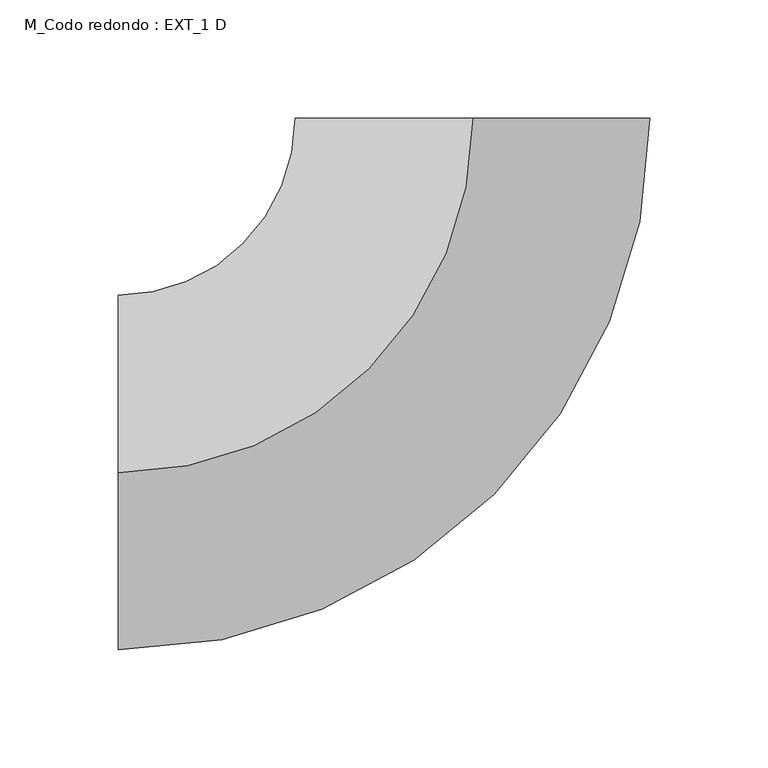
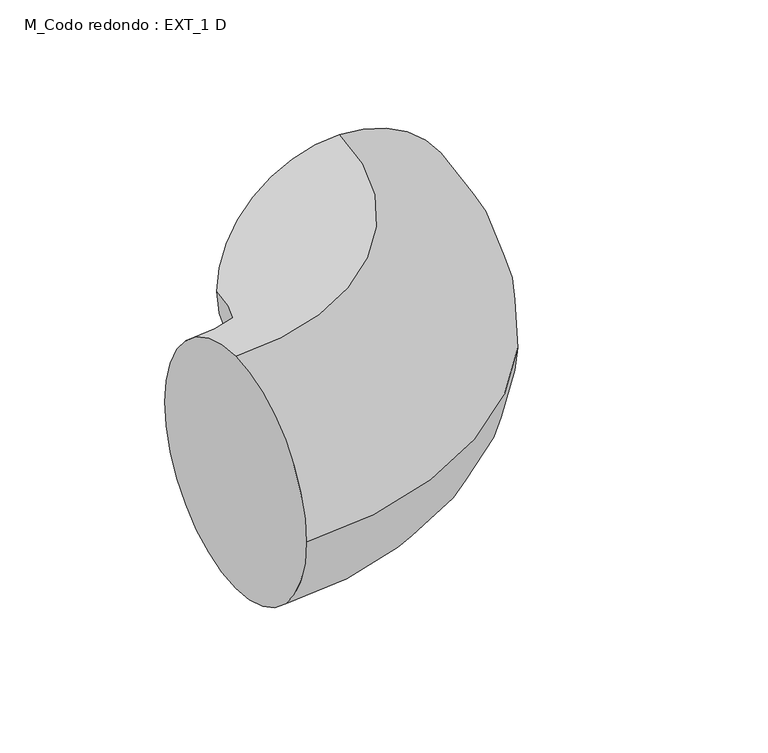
"""IFC4 building model written with IfcOpenShell, lengths in millimetres: duct fitting geometry, M_Codo redondo : EXT_1 D."""

from ifc_helpers import new_model, si_unit, point, frame, origin, place, context, project, spatial, circle_curve, ellipse_curve, trimmed, source, transform, mapped, element, save
from ifc_brep_helpers import plane_surface, revolved_surface, advanced_brep


def m_codo_redondo_ext_1_d_1a9a136b(model_context):
    return source(origin(), model_context, "Body", "AdvancedBrep", [
        advanced_brep(
        [(-150.0031728, 0.0, 75.0), (-150.0031728, 75.0, 0.0), (-150.0031728, 0.0, -75.0), (-150.0031728, -75.0, 0.0), (-0.0031729, 150.0031728, 75.0), (74.9968271, 150.0047592, 0.0), (-0.0031729, 150.0031728, -75.0), (-75.0031729, 150.0015864, 0.0)],
        [
            (0, 1, circle_curve(frame((-150.0031728, 0.0, 0.0), z_axis=(-1.0, 0.0, 0.0), x_axis=(0.0, 1.0, 0.0)), 75.0)),
            (1, 2, circle_curve(frame((-150.0031728, 0.0, 0.0), z_axis=(-1.0, 0.0, 0.0), x_axis=(0.0, 1.0, 0.0)), 75.0)),
            (2, 3, circle_curve(frame((-150.0031728, 0.0, 0.0), z_axis=(-1.0, 0.0, 0.0), x_axis=(0.0, 1.0, 0.0)), 75.0)),
            (3, 0, circle_curve(frame((-150.0031728, 0.0, 0.0), z_axis=(-1.0, 0.0, 0.0), x_axis=(0.0, 1.0, 0.0)), 75.0)),
            (4, 5, circle_curve(frame((-0.0031729, 150.0031728, 0.0), z_axis=(-2.115200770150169e-05, 0.9999999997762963, 0.0), x_axis=(-0.9999999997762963, -2.115200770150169e-05, 0.0)), 75.0)),
            (5, 6, circle_curve(frame((-0.0031729, 150.0031728, 0.0), z_axis=(-2.115200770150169e-05, 0.9999999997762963, 0.0), x_axis=(-0.9999999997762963, -2.115200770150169e-05, 0.0)), 75.0)),
            (6, 7, circle_curve(frame((-0.0031729, 150.0031728, 0.0), z_axis=(-2.115200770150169e-05, 0.9999999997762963, 0.0), x_axis=(-0.9999999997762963, -2.115200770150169e-05, 0.0)), 75.0)),
            (7, 4, circle_curve(frame((-0.0031729, 150.0031728, 0.0), z_axis=(-2.115200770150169e-05, 0.9999999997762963, 0.0), x_axis=(-0.9999999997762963, -2.115200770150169e-05, 0.0)), 75.0)),
            (7, 1, circle_curve(frame((-150.0031728, 150.0, 0.0), z_axis=(0.0, 0.0, -1.0), x_axis=(0.0, -1.0, 0.0)), 75.0)),
            (0, 4, circle_curve(frame((-150.0031728, 150.0, 75.0), z_axis=(0.0, 0.0, 1.0), x_axis=(0.0, -1.0, 0.0)), 150.0)),
            (6, 2, circle_curve(frame((-150.0031728, 150.0, -75.0), z_axis=(0.0, 0.0, -1.0), x_axis=(0.0, -1.0, 0.0)), 150.0)),
            (5, 3, circle_curve(frame((-150.0031728, 150.0, 0.0), z_axis=(0.0, 0.0, -1.0), x_axis=(0.0, -1.0, 0.0)), 225.0)),
        ],
        [
            plane_surface(frame((-150.0031728, 0.0, 0.0), z_axis=(-1.0, 0.0, 0.0), x_axis=(0.0, 0.0, 1.0))),
            plane_surface(frame((-0.0031729, 150.0031728, 0.0), z_axis=(-2.1152007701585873e-05, 0.9999999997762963, 0.0), x_axis=(0.0, 0.0, 1.0))),
            revolved_surface(trimmed(ellipse_curve(frame((-150.0031728, 0.0, 0.0), z_axis=(-1.0, 0.0, 0.0), x_axis=(0.0, 1.0, 0.0)), 75.0, 75.0), [point((-150.0031728, 0.0, 75.0))], [point((-150.0031728, 75.0, 0.0))], True, "CARTESIAN"), (-150.0031728, 150.0, 0.0), (0.0, 0.0, 1.0)),
            revolved_surface(trimmed(ellipse_curve(frame((-150.0031728, 0.0, 0.0), z_axis=(-1.0, 0.0, 0.0), x_axis=(0.0, 1.0, 0.0)), 75.0, 75.0), [point((-150.0031728, 75.0, 0.0))], [point((-150.0031728, 0.0, -75.0))], True, "CARTESIAN"), (-150.0031728, 150.0, 0.0), (0.0, 0.0, 1.0)),
            revolved_surface(trimmed(ellipse_curve(frame((-150.0031728, 0.0, 0.0), z_axis=(-1.0, 0.0, 0.0), x_axis=(0.0, 1.0, 0.0)), 75.0, 75.0), [point((-150.0031728, 0.0, -75.0))], [point((-150.0031728, -75.0, 0.0))], True, "CARTESIAN"), (-150.0031728, 150.0, 0.0), (0.0, 0.0, 1.0)),
            revolved_surface(trimmed(ellipse_curve(frame((-150.0031728, 0.0, 0.0), z_axis=(-1.0, 0.0, 0.0), x_axis=(0.0, 1.0, 0.0)), 75.0, 75.0), [point((-150.0031728, -75.0, 0.0))], [point((-150.0031728, 0.0, 75.0))], True, "CARTESIAN"), (-150.0031728, 150.0, 0.0), (0.0, 0.0, 1.0)),
        ],
        [
            (0, [[1, 2, 3, 4]]),
            (1, [[5, 6, 7, 8]]),
            (2, [[9, -1, 10, -8]]),
            (3, [[11, -2, -9, -7]]),
            (4, [[12, -3, -11, -6]]),
            (5, [[-10, -4, -12, -5]]),
        ],
    ),
    ])


if __name__ == "__main__":
    model = new_model("IFC4")
    model_context = context("Model", 3, world=origin())
    ifc_project = project(units=[si_unit("LENGTHUNIT", "METRE", prefix="MILLI")], contexts=[model_context])
    site = spatial("IfcSite", under=ifc_project)
    building = spatial("IfcBuilding", under=site)
    placement = place(None, origin())
    m_codo_redondo_ext_1_d_shape = m_codo_redondo_ext_1_d_1a9a136b(model_context)
    element("IfcDuctFitting", 1, ObjectType="M_Codo redondo : EXT_1 D", at=placement, inside=building, context=model_context, shape_type="MappedRepresentation", body=[
        mapped(m_codo_redondo_ext_1_d_shape, transform((0.0, 0.0, 0.0), x_axis=(1.0, 0.0, 0.0), y_axis=(0.0, 1.0, 0.0), z_axis=(0.0, 0.0, 1.0))),
    ])
    save(model, "model.ifc")
